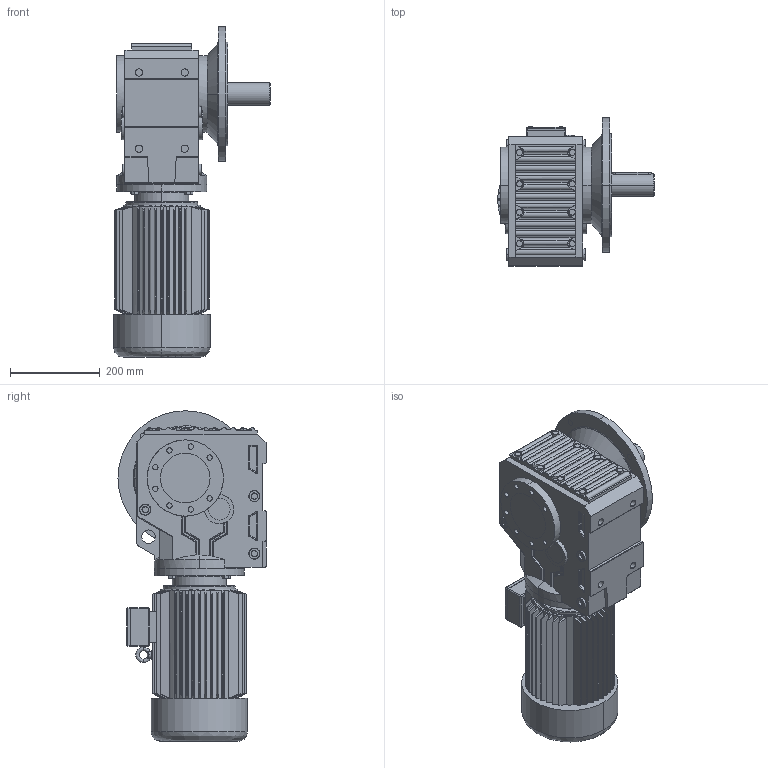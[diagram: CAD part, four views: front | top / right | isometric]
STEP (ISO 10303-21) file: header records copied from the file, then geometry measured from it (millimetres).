
FILE_DESCRIPTION (( 'STEP AP214' ), '1' );
FILE_NAME ('MKF77A.step', '2020-06-27T07:22:04', ( '' ), ( '' ), 'SwSTEP 2.0', 'SolidWorks 2016', '' );
FILE_SCHEMA (( 'AUTOMOTIVE_DESIGN' ));
Length unit declared in the file: millimetre
Products named in the file (1): MKF77A
Bounding box: 349.5 x 330 x 737 mm (x, y, z)
Volume: 27271893.2 mm3; surface area: 1323147.6 mm2
Topology: 5 solids, 5 shells, 1397 faces, 3427 edges, 2090 vertices
Faces by surface type: plane 620, cylinder 359, cone 235, bspline 183
Entity records: 60725 total; most frequent: CARTESIAN_POINT 14259, ORIENTED_EDGE 6766, DIRECTION 5977, EDGE_CURVE 3383, AXIS2_PLACEMENT_3D 2168, VERTEX_POINT 2090, LINE 1641, VECTOR 1641
